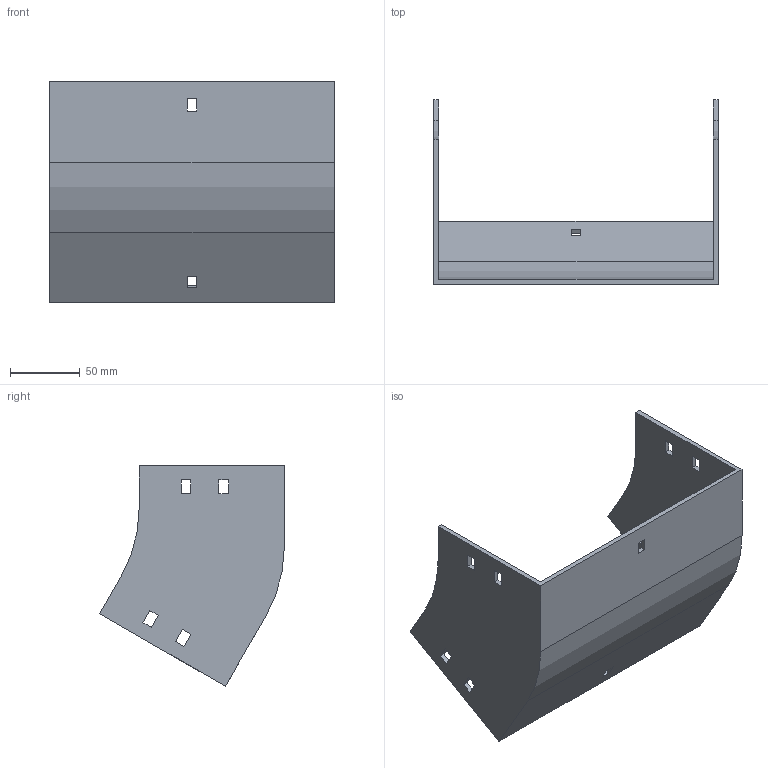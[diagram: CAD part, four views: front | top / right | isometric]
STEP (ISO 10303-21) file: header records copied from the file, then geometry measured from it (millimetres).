
FILE_DESCRIPTION (( 'STEP AP214' ), '1' );
FILE_NAME ('32F1D200.step', '2025-02-21T12:59:27', ( '' ), ( '' ), 'SwSTEP 2.0', 'SolidWorks 2023', '' );
FILE_SCHEMA (( 'AUTOMOTIVE_DESIGN' ));
Length unit declared in the file: millimetre
Products named in the file (1): 32F1D200
Bounding box: 204 x 132.4 x 157.98 mm (x, y, z)
Volume: 215879.4 mm3; surface area: 128156.6 mm2
Topology: 1 solids, 1 shells, 58 faces, 168 edges, 112 vertices
Faces by surface type: plane 54, cylinder 4
Entity records: 1943 total; most frequent: CARTESIAN_POINT 339, ORIENTED_EDGE 336, DIRECTION 294, EDGE_CURVE 168, LINE 160, VECTOR 160, VERTEX_POINT 112, EDGE_LOOP 78
